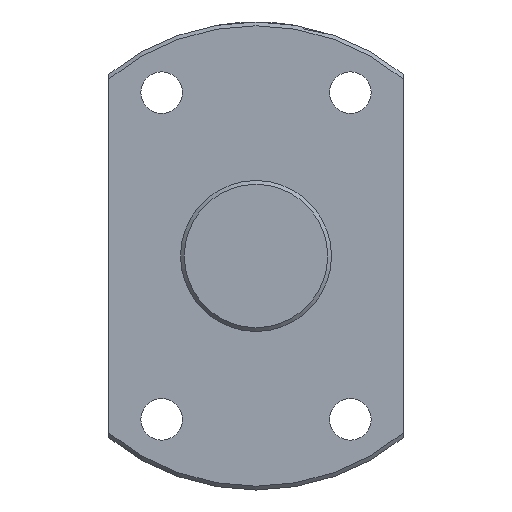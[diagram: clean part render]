
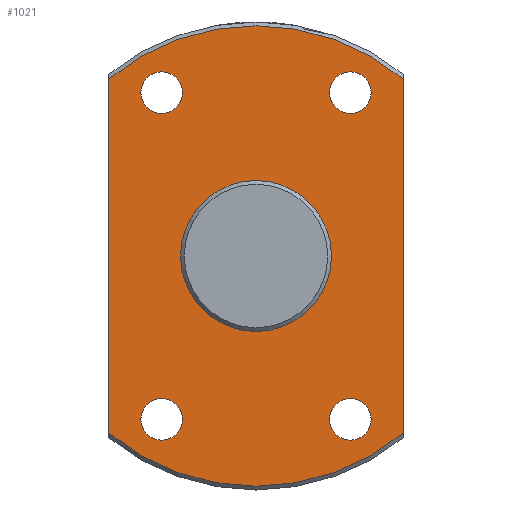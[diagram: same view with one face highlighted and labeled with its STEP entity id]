
A CAD part, left-side view. The second image highlights one B-rep face of the part: STEP entity #1021.
In plain terms, the highlighted planar face has unit normal (-1, 0, 0).
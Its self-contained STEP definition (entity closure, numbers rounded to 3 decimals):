
#315=CARTESIAN_POINT('',(256.107,-19.5,23.452));
#316=VERTEX_POINT('',#315);
#341=CARTESIAN_POINT('',(256.107,19.5,23.452));
#342=VERTEX_POINT('',#341);
#356=CARTESIAN_POINT('',(256.107,0.0,0.0));
#357=DIRECTION('',(1.0,0.0,0.0));
#358=DIRECTION('',(0.0,1.0,0.0));
#359=AXIS2_PLACEMENT_3D('',#356,#357,#358);
#360=CIRCLE('',#359,30.5);
#361=EDGE_CURVE('',#342,#316,#360,.T.);
#484=CARTESIAN_POINT('',(256.107,-19.5,-23.452));
#485=VERTEX_POINT('',#484);
#486=CARTESIAN_POINT('',(256.107,-19.5,23.452));
#487=DIRECTION('',(0.0,0.0,-1.0));
#488=VECTOR('',#487,46.904);
#489=LINE('',#486,#488);
#490=EDGE_CURVE('',#316,#485,#489,.T.);
#566=CARTESIAN_POINT('',(256.107,19.5,-23.452));
#567=VERTEX_POINT('',#566);
#591=CARTESIAN_POINT('',(256.107,0.0,0.0));
#592=DIRECTION('',(1.0,0.0,0.0));
#593=DIRECTION('',(0.0,1.0,0.0));
#594=AXIS2_PLACEMENT_3D('',#591,#592,#593);
#595=CIRCLE('',#594,30.5);
#596=EDGE_CURVE('',#485,#567,#595,.T.);
#677=CARTESIAN_POINT('',(256.107,19.5,-23.452));
#678=DIRECTION('',(0.0,0.0,1.0));
#679=VECTOR('',#678,46.904);
#680=LINE('',#677,#679);
#681=EDGE_CURVE('',#567,#342,#680,.T.);
#903=CARTESIAN_POINT('',(256.107,10.0,0.));
#904=VERTEX_POINT('',#903);
#905=CARTESIAN_POINT('',(256.107,0.0,0.0));
#906=DIRECTION('',(1.0,0.0,0.0));
#907=DIRECTION('',(0.0,-1.0,0.0));
#908=AXIS2_PLACEMENT_3D('',#905,#906,#907);
#909=CIRCLE('',#908,10.0);
#910=EDGE_CURVE('',#904,#904,#909,.T.);
#923=CARTESIAN_POINT('',(256.107,15.25,-21.651));
#924=VERTEX_POINT('',#923);
#925=CARTESIAN_POINT('',(256.107,12.5,-21.651));
#926=DIRECTION('',(1.0,0.0,0.0));
#927=DIRECTION('',(0.0,1.0,0.0));
#928=AXIS2_PLACEMENT_3D('',#925,#926,#927);
#929=CIRCLE('',#928,2.75);
#930=EDGE_CURVE('',#924,#924,#929,.T.);
#943=CARTESIAN_POINT('',(256.107,-9.75,21.651));
#944=VERTEX_POINT('',#943);
#945=CARTESIAN_POINT('',(256.107,-12.5,21.651));
#946=DIRECTION('',(1.0,0.0,0.0));
#947=DIRECTION('',(0.0,1.0,0.0));
#948=AXIS2_PLACEMENT_3D('',#945,#946,#947);
#949=CIRCLE('',#948,2.75);
#950=EDGE_CURVE('',#944,#944,#949,.T.);
#963=CARTESIAN_POINT('',(256.107,15.25,21.651));
#964=VERTEX_POINT('',#963);
#965=CARTESIAN_POINT('',(256.107,12.5,21.651));
#966=DIRECTION('',(1.0,0.0,0.0));
#967=DIRECTION('',(0.0,1.0,0.0));
#968=AXIS2_PLACEMENT_3D('',#965,#966,#967);
#969=CIRCLE('',#968,2.75);
#970=EDGE_CURVE('',#964,#964,#969,.T.);
#983=CARTESIAN_POINT('',(256.107,-9.75,-21.651));
#984=VERTEX_POINT('',#983);
#985=CARTESIAN_POINT('',(256.107,-12.5,-21.651));
#986=DIRECTION('',(1.0,0.0,0.0));
#987=DIRECTION('',(0.0,1.0,0.0));
#988=AXIS2_PLACEMENT_3D('',#985,#986,#987);
#989=CIRCLE('',#988,2.75);
#990=EDGE_CURVE('',#984,#984,#989,.T.);
#995=CARTESIAN_POINT('',(256.107,0.0,0.0));
#996=DIRECTION('',(-1.0,0.0,0.0));
#997=DIRECTION('',(0.0,0.0,1.0));
#998=AXIS2_PLACEMENT_3D('',#995,#996,#997);
#999=PLANE('',#998);
#1000=ORIENTED_EDGE('',*,*,#361,.F.);
#1001=ORIENTED_EDGE('',*,*,#681,.F.);
#1002=ORIENTED_EDGE('',*,*,#596,.F.);
#1003=ORIENTED_EDGE('',*,*,#490,.F.);
#1004=EDGE_LOOP('',(#1000,#1001,#1002,#1003));
#1005=FACE_OUTER_BOUND('',#1004,.T.);
#1006=ORIENTED_EDGE('',*,*,#910,.T.);
#1007=EDGE_LOOP('',(#1006));
#1008=FACE_BOUND('',#1007,.T.);
#1009=ORIENTED_EDGE('',*,*,#930,.T.);
#1010=EDGE_LOOP('',(#1009));
#1011=FACE_BOUND('',#1010,.T.);
#1012=ORIENTED_EDGE('',*,*,#950,.T.);
#1013=EDGE_LOOP('',(#1012));
#1014=FACE_BOUND('',#1013,.T.);
#1015=ORIENTED_EDGE('',*,*,#970,.T.);
#1016=EDGE_LOOP('',(#1015));
#1017=FACE_BOUND('',#1016,.T.);
#1018=ORIENTED_EDGE('',*,*,#990,.T.);
#1019=EDGE_LOOP('',(#1018));
#1020=FACE_BOUND('',#1019,.T.);
#1021=ADVANCED_FACE('',(#1005,#1008,#1011,#1014,#1017,#1020),#999,.T.);
